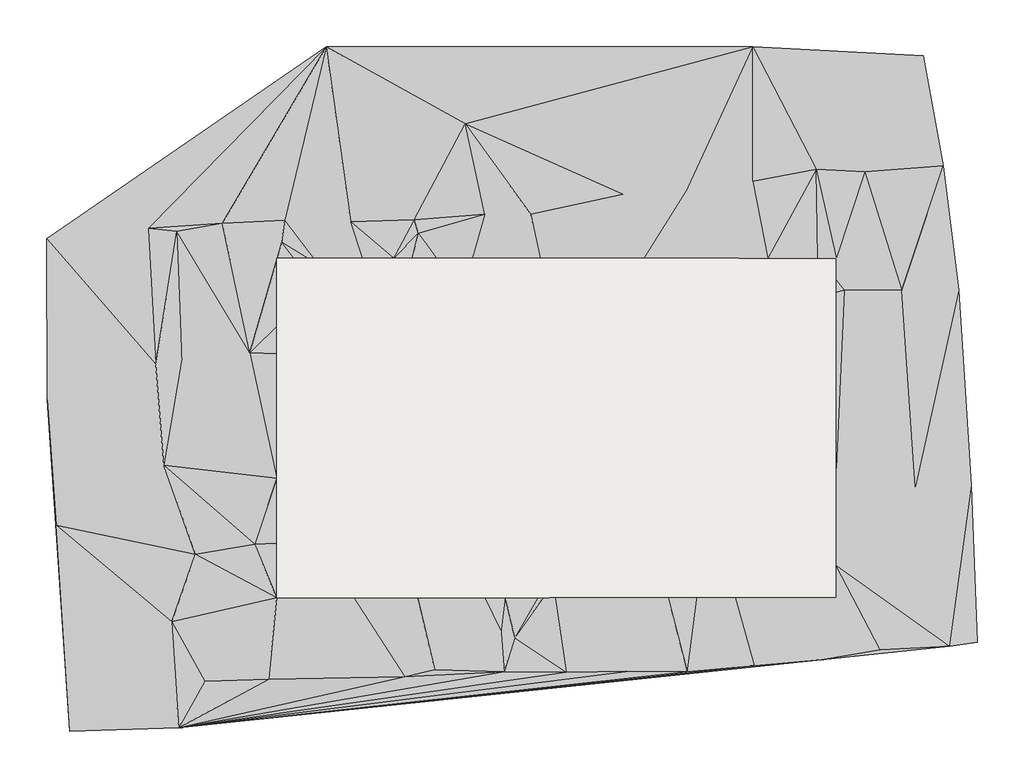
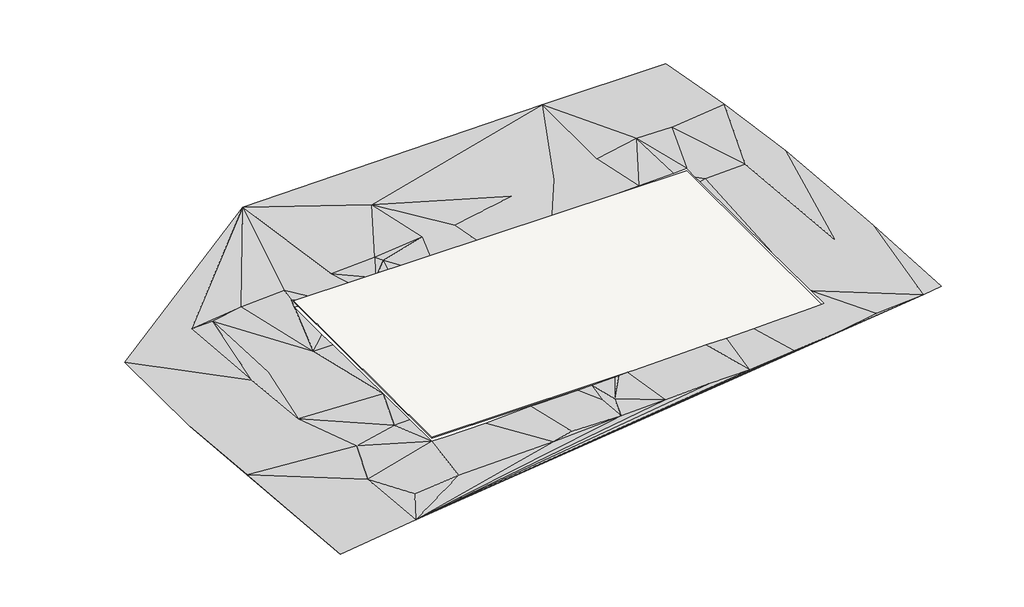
# One storey, incomplete: 1 proxy, 1 slab.
"""IFC4 building model written with IfcOpenShell, lengths in millimetres."""

from ifc_helpers import new_model, si_unit, frame, origin, place, context, project, spatial, polyline, outline, extrude, triangles, element, save

model = new_model("IFC4")

# Units and contexts
model_context = context("Model", 3, world=origin())
ifc_project = project(units=[si_unit("LENGTHUNIT", "METRE", prefix="MILLI")], contexts=[model_context])

# Site, building, storey
site = spatial("IfcSite", under=ifc_project)
building = spatial("IfcBuilding", under=site)
storey = spatial("IfcBuildingStorey", under=building, Name="Nível 1", Elevation=0.0)

# Proxy
placement = place(None, origin())
element("IfcBuildingElementProxy", 1, Name="Building Element Proxy", at=placement, inside=storey, context=model_context, shape_type="Tessellation", body=[
    triangles([(45336.158313, -8765.0783615, 919.0000099), (43866.1271118, -677.2438362, 1016.9999874), (31335.84776, 0.0, 463.0000093), (0.0, 0.0, 100.0000008), (-20558.8567383, -14138.3218964, -1276.9999603), (-20524.7192871, -25926.5221252, -1264.0000271), (-18837.886203, -50305.3712769, -1202.0000324), (-10833.7712769, -50055.9818481, -366.0000072), (45767.7505737, -44071.6913086, 1102.0000317), (47845.7772217, -43783.4437866, 1113.0000143), (47375.3547729, -32223.4563721, 1027.0000311), (46475.1027466, -17891.0091156, 890.9999748), (37461.248291, -15559.9432617, 688.4756361), (37461.248291, -17159.8781616, 709.4373653), (37461.248291, -18064.0392517, 718.5868795), (37461.248291, -31023.8528503, 800.4216373), (37461.248291, -33195.6458679, 817.1292658), (37461.248291, -38143.5089722, 860.5722536), (37461.248291, -40509.9459229, 880.9497162), (37082.3249084, -40509.9459229, 871.3389656), (35210.3066162, -40509.9459229, 821.8812286), (32233.9975891, -40509.9459229, 741.3849066), (30060.8465149, -40509.9459229, 681.1278288), (27234.0190613, -40509.9459229, 618.6291727), (25126.9988342, -40509.9459229, 639.8233006), (22761.7641357, -40509.9459229, 591.5174191), (17568.5973999, -40509.9459229, 476.0951766), (16832.040033, -40509.9459229, 464.4153663), (15949.9171326, -40509.9459229, 437.2021654), (15542.2559692, -40509.9459229, 415.7539833), (13141.7059845, -40509.9459229, 329.1267855), (11688.2667938, -40509.9459229, 296.0159795), (7579.0100601, -40509.9459229, 259.2833379), (6725.3708862, -40509.9459229, 251.0503193), (6563.9609711, -40509.9459229, 243.8898734), (2020.5166409, -40509.9459229, 44.9333038), (-2107.4815361, -40509.9459229, 5.702329), (-3638.7526039, -40509.9459229, 12.0432602), (-3638.7526039, -36511.9573975, -34.414476), (-3638.7526039, -31726.1192871, -38.1927133), (-3638.7526039, -22587.6584839, -156.2878986), (-3638.7526039, -20567.2399475, -284.5260195), (-3638.7526039, -15651.5086029, -264.7934303), (-3638.7526039, -15559.9432617, -265.8917099), (-3612.1152763, -15559.9432617, -265.3926125), (-2387.4308727, -15559.9432617, -309.8397723), (-1364.8556442, -15559.9432617, -284.9694517), (-934.3391172, -15559.9432617, -292.838866), (-198.7197926, -15559.9432617, -259.5196788), (2683.1179115, -15559.9432617, -123.0928953), (4939.2863022, -15559.9432617, -6.8335854), (6325.3365829, -15559.9432617, 122.280236), (8097.8597855, -15559.9432617, 78.7505166), (10715.7063904, -15559.9432617, 81.0130329), (14317.2691132, -15559.9432617, 168.6057695), (15704.9472015, -15559.9432617, 205.699581), (20378.5119324, -15559.9432617, 221.9308395), (22382.0431274, -15559.9432617, 213.8967005), (23358.3858582, -15559.9432617, 210.7745437), (27699.239502, -15559.9432617, 347.9272731), (29973.2727905, -15559.9432617, 436.6795956), (32431.1878784, -15559.9432617, 536.21251), (36117.9488892, -15559.9432617, 651.3103174), (-10973.0767273, -13556.4364838, -483.9999993), (-7661.6271103, -12997.7147736, -372.0000043), (-3273.9225471, -14397.4200348, -272.999997), (1800.6537529, -12874.659494, -91.9999985), (6454.7606598, -12735.6168182, 28.000001), (11651.6318207, -12316.3889191, 191.0000058), (15033.5044647, -12330.2555145, 280.9999992), (21800.4553711, -10859.7917816, 270.9999919), (26432.9795837, -10620.3784882, 258.9999976), (31350.1771179, -9881.2945312, 445.0000179), (35995.0842957, -9002.6632782, 561.9999985), (39580.2073242, -9217.7838684, 673.9999935), (-10638.752948, -23031.5732483, -475.0000036), (-5630.0848343, -22496.6291565, -219.999998), (38075.1015198, -17891.0091156, 735.9999882), (42275.1032959, -17891.0091156, 859.9999775), (-9632.842836, -37323.8497009, -300.9999958), (-5274.4408447, -36567.1330994, -27.0000008), (38255.6556152, -33182.3001709, 838.0000122), (43277.2421265, -32369.5939636, 938.000013), (-8944.1465012, -46642.2460327, -203.0000001), (-4244.6042862, -46486.3857788, 83.9999963), (5775.101564, -46291.0070068, 175.9999948), (7966.9590546, -45805.0878296, 275.9999956), (13080.0888153, -45955.8832764, 302.0000074), (17638.3512817, -45989.2858887, 498.9999922), (22265.0851501, -45896.9101318, 572.0000058), (26529.3946289, -45949.330188, 658.9999643), (36355.1809204, -45051.0640869, 891.9999865), (40704.547998, -44317.7739624, 996.0000338), (-13088.0639099, -13358.791571, -694.0000082), (-12529.8363556, -23344.3797363, -529.9999895), (-11944.6743988, -30760.3340515, -482.0000124), (-11364.4191193, -42268.801355, -391.0000073), (-19845.2514587, -35165.4837708, -1236.999931), (12849.9086792, -42909.9436157, 316.0000068), (13829.4407501, -43452.0640137, 376.9999898), (31442.2877747, -45500.1994629, 763.0000116), (6762.9459183, -13706.0168884, 140.0000029), (-3051.1163795, -12778.4874573, -308.999998), (10196.0357849, -5665.8157928, 241.0000062)], [[7, 8, 97], [97, 8, 84], [7, 97, 98], [84, 85, 38], [85, 84, 8], [38, 85, 37], [84, 38, 97], [8, 86, 85], [97, 38, 80], [95, 6, 96], [98, 6, 7], [96, 6, 98], [6, 95, 5], [80, 81, 96], [81, 80, 38], [96, 76, 95], [96, 77, 76], [40, 96, 81], [80, 96, 98], [98, 97, 80], [95, 76, 64], [81, 38, 39], [85, 36, 37], [36, 85, 86], [35, 36, 86], [87, 88, 99], [88, 87, 86], [99, 31, 32], [35, 86, 87], [86, 8, 88], [33, 87, 99], [77, 96, 40], [40, 81, 39], [35, 87, 34], [33, 34, 87], [32, 33, 99], [8, 89, 88], [77, 40, 41], [77, 42, 43], [77, 41, 42], [65, 77, 43], [46, 47, 66], [45, 46, 66], [94, 5, 95], [64, 94, 95], [94, 64, 65], [5, 94, 4], [44, 66, 65], [66, 44, 45], [65, 103, 4], [103, 65, 66], [66, 47, 103], [65, 64, 77], [44, 65, 43], [94, 65, 4], [47, 48, 103], [76, 77, 64], [50, 51, 67], [49, 50, 67], [102, 52, 53], [51, 52, 102], [54, 69, 53], [67, 4, 103], [48, 49, 67], [4, 67, 104], [67, 103, 48], [68, 102, 69], [68, 67, 51], [104, 69, 70], [69, 104, 68], [102, 53, 69], [68, 104, 67], [102, 68, 51], [4, 104, 3], [69, 54, 55], [99, 88, 100], [89, 28, 100], [89, 100, 88], [89, 8, 90], [90, 27, 89], [91, 23, 24], [23, 91, 101], [90, 91, 25], [8, 91, 90], [91, 24, 25], [100, 30, 31], [100, 29, 30], [89, 27, 28], [100, 28, 29], [90, 26, 27], [90, 25, 26], [100, 31, 99], [22, 101, 92], [92, 101, 8], [19, 92, 93], [20, 92, 19], [18, 93, 9], [9, 93, 92], [93, 18, 19], [92, 8, 9], [11, 83, 9], [21, 22, 92], [20, 21, 92], [17, 18, 82], [17, 82, 16], [83, 82, 18], [16, 82, 83], [9, 83, 18], [9, 10, 11], [101, 22, 23], [91, 8, 101], [70, 55, 56], [57, 70, 56], [59, 60, 72], [71, 57, 58], [71, 58, 59], [59, 72, 71], [71, 70, 57], [71, 72, 3], [71, 3, 104], [61, 62, 73], [74, 3, 73], [3, 72, 73], [73, 62, 74], [73, 72, 61], [61, 72, 60], [71, 104, 70], [55, 70, 69], [16, 78, 15], [78, 16, 79], [15, 78, 14], [83, 12, 79], [79, 16, 83], [79, 12, 1], [11, 12, 83], [78, 79, 13], [13, 74, 63], [63, 74, 62], [13, 75, 74], [13, 79, 75], [1, 2, 75], [14, 78, 13], [75, 2, 74], [1, 75, 79], [74, 2, 3]], closed=False),
])

# Slab
element("IfcSlab", 2, ObjectType="Plataforma 1", at=placement, inside=storey, context=model_context, shape_type="SweptSolid", body=[
    extrude(outline(polyline([(37461.2472776, -15559.9438169), (37461.2472776, -40509.9438169), (-3638.7527224, -40509.9438169), (-3638.7527224, -15559.9438169), (37461.2472776, -15559.9438169)])), frame((0.0, 0.0, 350.0), z_axis=(0.0, 0.0, 1.0), x_axis=(1.0, 0.0, 0.0)), (0.0, 0.0, 1.0), 100.0),
])

save(model, "model.ifc")
